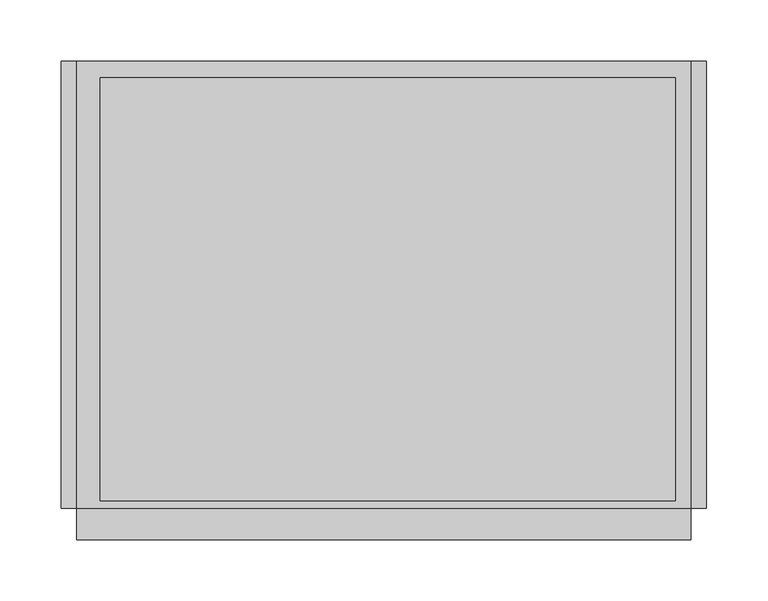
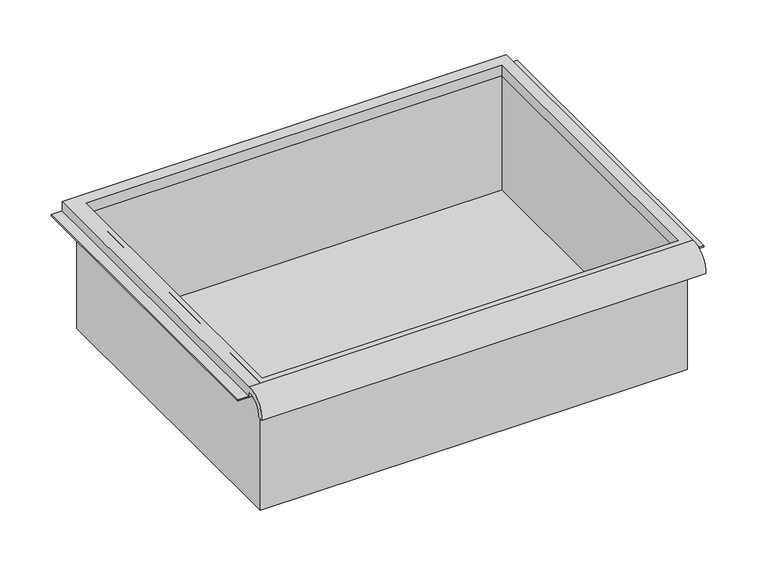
"""IFC4 building model written with IfcOpenShell, lengths in millimetres: furniture geometry."""

from ifc_helpers import new_model, si_unit, frame, origin, place, context, project, spatial, polyline, circle_curve, faceted_brep, source, transform, mapped, element, save
from ifc_brep_helpers import plane_surface, cylinder_surface, revolved_surface, advanced_brep


def furniture_9c072757(model_context):
    return source(origin(), model_context, "Body", "SolidModel", [
        advanced_brep(
        [(263.7474999, -195.297482, 1618.4510272), (263.7474999, -188.9125, 1618.4510272), (263.7474999, -169.8625, 1636.7125004), (263.7474999, -169.8625, 1630.3625), (263.7474999, 195.2625, 1630.3625), (263.7474999, 195.2625, 1643.0625004), (263.7474999, -169.8625, 1643.0625004), (-237.9025001, -195.297482, 1618.4510272), (-237.9025001, -169.8625, 1643.0625004), (-237.9025001, 195.2625, 1643.0625004), (-237.9025001, 195.2625, 1630.3625), (-237.9025001, -169.8625, 1630.3625), (-237.9025001, -169.8625, 1636.7125004), (-237.9025001, -188.9125, 1618.4510272), (251.0474878, 181.9275, 1630.3625), (-218.8095642, 181.9275, 1630.3625), (-218.8095642, -163.5125, 1630.3625), (251.0474878, -163.5125, 1630.3625), (-218.8095642, 181.9275, 1643.0625004), (251.0474878, 181.9275, 1643.0625004), (251.0474878, -163.5125, 1643.0625004), (-218.8095642, -163.5125, 1643.0625004)],
        [
            (0, 1),
            (1, 2, circle_curve(frame((263.7474999, -172.3404634, 1620.2304376), z_axis=(-1.0, 0.0, 0.0), x_axis=(0.0, 1.0, 0.0)), 16.6672942)),
            (2, 3),
            (3, 4),
            (4, 5),
            (5, 6),
            (6, 0, circle_curve(frame((263.7474999, -172.4601678, 1620.2983276), z_axis=(1.0, 0.0, 0.0), x_axis=(0.0, 1.0, 0.0)), 22.9119061)),
            (7, 8, circle_curve(frame((-237.9025001, -172.4601678, 1620.2983276), z_axis=(-1.0, 0.0, 0.0), x_axis=(0.0, 1.0, 0.0)), 22.9119061)),
            (8, 9),
            (9, 10),
            (10, 11),
            (11, 12),
            (12, 13, circle_curve(frame((-237.9025001, -172.3404634, 1620.2304376), z_axis=(1.0, 0.0, 0.0), x_axis=(0.0, 1.0, 0.0)), 16.6672942)),
            (13, 7),
            (0, 7),
            (13, 1),
            (12, 2),
            (11, 3),
            (10, 4),
            (14, 15),
            (15, 16),
            (16, 17),
            (17, 14),
            (9, 5),
            (8, 6),
            (18, 19),
            (19, 20),
            (20, 21),
            (21, 18),
            (14, 19),
            (18, 15),
            (21, 16),
            (20, 17),
        ],
        [
            plane_surface(frame((263.7474999, -195.297482, 1618.4510272), z_axis=(1.0, 0.0, 0.0), x_axis=(0.0, 1.0, 0.0))),
            plane_surface(frame((-237.9025001, -195.297482, 1618.4510272), z_axis=(-1.0, 0.0, 0.0), x_axis=(0.0, -1.0, 0.0))),
            plane_surface(frame((263.7474999, -195.297482, 1618.4510272), z_axis=(0.0, 0.0, -1.0), x_axis=(-1.0, 0.0, 0.0))),
            revolved_surface(polyline([(-237.9025001, -155.67316920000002, 1620.2304376), (263.7474999, -155.67316920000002, 1620.2304376)]), (-237.9025001, -172.3404634, 1620.2304376), (-1.0, 0.0, 0.0)),
            plane_surface(frame((263.7474999, -169.8625, 1636.7125004), z_axis=(0.0, -1.0, 0.0), x_axis=(-1.0, 0.0, 0.0))),
            plane_surface(frame((263.7474999, -169.8625, 1630.3625), z_axis=(0.0, 0.0, -1.0), x_axis=(-1.0, 0.0, 0.0))),
            plane_surface(frame((263.7474999, 195.2625, 1630.3625), z_axis=(0.0, 1.0, 0.0), x_axis=(-1.0, 0.0, 0.0))),
            plane_surface(frame((263.7474999, 195.2625, 1643.0625004), z_axis=(0.0, 0.0, 1.0), x_axis=(-1.0, 0.0, 0.0))),
            cylinder_surface(frame((-237.9025001, -172.4601678, 1620.2983276), z_axis=(1.0, 0.0, 0.0), x_axis=(0.0, 1.0, 0.0)), 22.9119061),
            plane_surface(frame((251.0474878, 181.9275, 1643.0625004), z_axis=(0.0, -1.0, 0.0), x_axis=(0.0, 0.0, -1.0))),
            plane_surface(frame((-218.8095642, 181.9275, 1643.0625004), z_axis=(1.0, 0.0, 0.0), x_axis=(0.0, 0.0, -1.0))),
            plane_surface(frame((-218.8095642, -163.5125, 1643.0625004), z_axis=(0.0, 1.0, 0.0), x_axis=(0.0, 0.0, -1.0))),
            plane_surface(frame((251.0474878, -163.5125, 1643.0625004), z_axis=(-1.0, 0.0, 0.0), x_axis=(0.0, 0.0, -1.0))),
        ],
        [
            (0, [[1, 2, 3, 4, 5, 6, 7]]),
            (1, [[8, 9, 10, 11, 12, 13, 14]]),
            (2, [[-1, 15, -14, 16]]),
            (3, [[-2, -16, -13, 17]]),
            (4, [[-3, -17, -12, 18]]),
            (5, [[-4, -18, -11, 19], [20, 21, 22, 23]]),
            (6, [[-5, -19, -10, 24]]),
            (7, [[-6, -24, -9, 25], [26, 27, 28, 29]]),
            (8, [[-7, -25, -8, -15]]),
            (9, [[30, -26, 31, -20]]),
            (10, [[-31, -29, 32, -21]]),
            (11, [[-32, -28, 33, -22]]),
            (12, [[-30, -23, -33, -27]]),
        ],
    ),
        faceted_brep([(-225.2025001, -169.8625, 1490.6625004), (257.3974878, -169.8625, 1490.6625004), (257.3974878, -169.8625, 1643.0625004), (-225.2025001, -169.8625, 1643.0625004), (-225.2025001, 188.9125, 1490.6625004), (-225.2025001, 188.9125, 1643.0625004), (257.3974878, 188.9125, 1643.0625004), (257.3974878, 188.9125, 1490.6625004), (-218.8095642, 181.9275, 1643.0625004), (251.0474878, 181.9275, 1643.0625004), (251.0474878, -163.5125, 1643.0625004), (-218.8095642, -163.5125, 1643.0625004), (251.0474878, 181.9275, 1493.8375004), (-218.8095642, 181.9275, 1493.8375004), (-218.8095642, -163.5125, 1493.8375004), (251.0474878, -163.5125, 1493.8375004)], [[[0, 1, 2, 3]], [[4, 5, 6, 7]], [[1, 0, 4, 7]], [[2, 1, 7, 6]], [[3, 2, 6, 5], [8, 9, 10, 11]], [[0, 3, 5, 4]], [[12, 13, 14, 15]], [[13, 12, 9, 8]], [[14, 13, 8, 11]], [[15, 14, 11, 10]], [[12, 15, 10, 9]]]),
        faceted_brep([(-250.6025001, 195.2625, 1630.3625), (-250.6025001, 195.2625, 1631.95), (-231.5525001, 195.2625, 1631.95), (-231.5525001, 195.2625, 1630.3625), (-250.6025001, -169.8625, 1630.3625), (-231.5525001, -169.8625, 1630.3625), (-231.5525001, -169.8625, 1631.95), (-250.6025001, -169.8625, 1631.95)], [[[0, 1, 2, 3]], [[4, 5, 6, 7]], [[1, 0, 4, 7]], [[2, 1, 7, 6]], [[3, 2, 6, 5]], [[0, 3, 5, 4]]]),
        faceted_brep([(276.4474999, 195.2625, 1630.3625), (263.7474999, 195.2625, 1630.3625), (263.7474999, 195.2625, 1631.95), (276.4474999, 195.2625, 1631.95), (276.4474999, -169.8625, 1630.3625), (276.4474999, -169.8625, 1631.95), (263.7474999, -169.8625, 1631.95), (263.7474999, -169.8625, 1630.3625)], [[[0, 1, 2, 3]], [[4, 5, 6, 7]], [[1, 0, 4, 7]], [[2, 1, 7, 6]], [[3, 2, 6, 5]], [[0, 3, 5, 4]]]),
    ])


if __name__ == "__main__":
    model = new_model("IFC4")
    model_context = context("Model", 3, world=origin())
    ifc_project = project(units=[si_unit("LENGTHUNIT", "METRE", prefix="MILLI")], contexts=[model_context])
    site = spatial("IfcSite", under=ifc_project)
    building = spatial("IfcBuilding", under=site)
    placement = place(None, origin())
    furniture_shape = furniture_9c072757(model_context)
    element("IfcFurniture", 1, ObjectType="HermanMiller_Carts_CT501_Drawer : 6\"H x 15\"D x 20\"W", at=placement, inside=building, context=model_context, shape_type="MappedRepresentation", body=[
        mapped(furniture_shape, transform((0.0, 0.0, 0.0), x_axis=(1.0, 0.0, 0.0), y_axis=(0.0, 1.0, 0.0), z_axis=(0.0, 0.0, 1.0))),
    ])
    save(model, "model.ifc")
